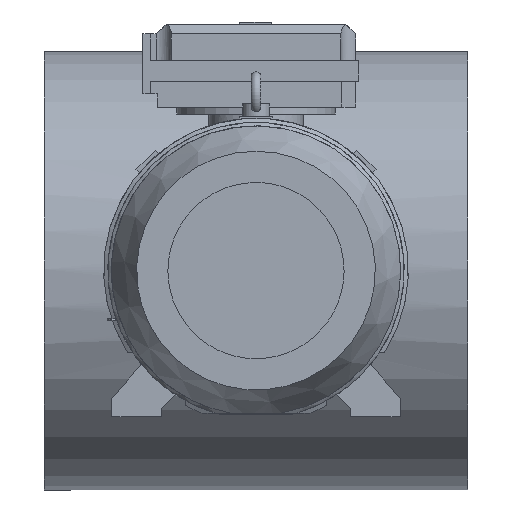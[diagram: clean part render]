
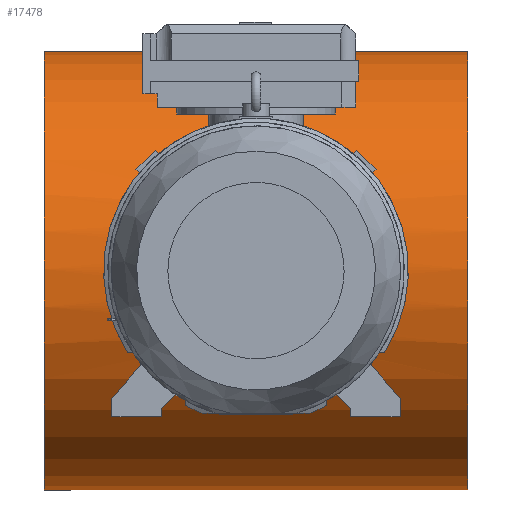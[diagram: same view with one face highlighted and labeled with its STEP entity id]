
A CAD part, left-side view. The second image highlights one B-rep face of the part: STEP entity #17478.
In plain terms, the highlighted cylindrical face has radius 533 mm (diameter 1066 mm), a partial arc.
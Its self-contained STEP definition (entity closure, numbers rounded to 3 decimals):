
#228=B_SPLINE_CURVE_WITH_KNOTS('',3,(#26114,#26115,#26116,#26117,#26118,
#26119,#26120,#26121,#26122,#26123,#26124,#26125,#26126,#26127,#26128,#26129,
#26130,#26131,#26132,#26133,#26134,#26135,#26136,#26137,#26138,#26139,#26140,
#26141,#26142,#26143,#26144,#26145,#26146,#26147,#26148,#26149,#26150,#26151,
#26152,#26153,#26154,#26155,#26156,#26157,#26158,#26159,#26160,#26161,#26162,
#26163),.UNSPECIFIED.,.F.,.F.,(4,2,2,2,2,2,2,2,2,2,2,2,2,2,2,2,2,2,2,2,
2,2,2,2,4),(0.,2.938,5.876,8.814,11.752,
14.69,17.627,20.564,23.502,26.439,
29.376,32.314,35.251,38.189,41.127,
44.065,47.004,49.942,52.88,55.818,
58.756,61.693,64.631,67.568,70.505),
 .UNSPECIFIED.);
#229=B_SPLINE_CURVE_WITH_KNOTS('',3,(#26164,#26165,#26166,#26167,#26168,
#26169,#26170,#26171,#26172,#26173,#26174,#26175,#26176,#26177,#26178,#26179,
#26180,#26181),.UNSPECIFIED.,.F.,.F.,(4,2,2,2,2,2,2,2,4),(70.505,
73.443,76.38,79.317,82.255,85.193,
88.131,91.069,94.007),.UNSPECIFIED.);
#491=FACE_BOUND('',#1959,.T.);
#1012=FACE_OUTER_BOUND('',#1958,.T.);
#1958=EDGE_LOOP('',(#11033,#11034,#11035,#11036));
#1959=EDGE_LOOP('',(#11037,#11038));
#2980=LINE('',#26106,#4174);
#2981=LINE('',#26110,#4175);
#4174=VECTOR('',#20658,10.);
#4175=VECTOR('',#20661,10.);
#5371=CIRCLE('',#18479,533.);
#5372=CIRCLE('',#18480,533.);
#6517=VERTEX_POINT('',#26104);
#6518=VERTEX_POINT('',#26105);
#6519=VERTEX_POINT('',#26107);
#6520=VERTEX_POINT('',#26109);
#6521=VERTEX_POINT('',#26112);
#6522=VERTEX_POINT('',#26113);
#8297=EDGE_CURVE('',#6517,#6518,#2980,.T.);
#8298=EDGE_CURVE('',#6517,#6519,#5371,.T.);
#8299=EDGE_CURVE('',#6520,#6519,#2981,.T.);
#8300=EDGE_CURVE('',#6518,#6520,#5372,.T.);
#8301=EDGE_CURVE('',#6521,#6522,#228,.T.);
#8302=EDGE_CURVE('',#6522,#6521,#229,.T.);
#11033=ORIENTED_EDGE('',*,*,#8297,.F.);
#11034=ORIENTED_EDGE('',*,*,#8298,.T.);
#11035=ORIENTED_EDGE('',*,*,#8299,.F.);
#11036=ORIENTED_EDGE('',*,*,#8300,.F.);
#11037=ORIENTED_EDGE('',*,*,#8301,.T.);
#11038=ORIENTED_EDGE('',*,*,#8302,.T.);
#16138=CYLINDRICAL_SURFACE('',#18478,533.);
#17478=ADVANCED_FACE('',(#1012,#491),#16138,.T.);
#18478=AXIS2_PLACEMENT_3D('',#26103,#20656,#20657);
#18479=AXIS2_PLACEMENT_3D('',#26108,#20659,#20660);
#18480=AXIS2_PLACEMENT_3D('',#26111,#20662,#20663);
#20656=DIRECTION('center_axis',(0.,1.,0.));
#20657=DIRECTION('ref_axis',(0.,0.,
1.));
#20658=DIRECTION('',(0.,1.,0.));
#20659=DIRECTION('center_axis',(0.,1.,0.));
#20660=DIRECTION('ref_axis',(0.,0.,
-1.));
#20661=DIRECTION('',(0.,-1.,0.));
#20662=DIRECTION('center_axis',(0.,1.,0.));
#20663=DIRECTION('ref_axis',(0.,0.,
-1.));
#26103=CARTESIAN_POINT('Origin',(-1.605,0.,
-1.605));
#26104=CARTESIAN_POINT('',(-8.512,-515.,-534.56));
#26105=CARTESIAN_POINT('',(-8.512,515.,-534.56));
#26106=CARTESIAN_POINT('',(-8.512,0.,-534.56));
#26107=CARTESIAN_POINT('',(5.303,-515.,-534.56));
#26108=CARTESIAN_POINT('Origin',(-1.605,-515.,-1.605));
#26109=CARTESIAN_POINT('',(5.303,515.,-534.56));
#26110=CARTESIAN_POINT('',(5.303,0.,-534.56));
#26111=CARTESIAN_POINT('Origin',(-1.605,515.,-1.605));
#26112=CARTESIAN_POINT('',(-511.569,0.,153.395));
#26113=CARTESIAN_POINT('',(-534.605,155.,-1.605));
#26114=CARTESIAN_POINT('Ctrl Pts',(-511.569,0.,
153.395));
#26115=CARTESIAN_POINT('Ctrl Pts',(-511.569,-9.794,
153.395));
#26116=CARTESIAN_POINT('Ctrl Pts',(-511.859,-19.902,
152.452));
#26117=CARTESIAN_POINT('Ctrl Pts',(-513.035,-39.973,
148.501));
#26118=CARTESIAN_POINT('Ctrl Pts',(-513.921,-49.935,145.495));
#26119=CARTESIAN_POINT('Ctrl Pts',(-516.13,-69.011,
137.569));
#26120=CARTESIAN_POINT('Ctrl Pts',(-517.454,-78.141,
132.643));
#26121=CARTESIAN_POINT('Ctrl Pts',(-520.278,-95.011,
121.283));
#26122=CARTESIAN_POINT('Ctrl Pts',(-521.775,-102.752,
114.847));
#26123=CARTESIAN_POINT('Ctrl Pts',(-524.653,-116.45,
101.149));
#26124=CARTESIAN_POINT('Ctrl Pts',(-526.137,-122.885,93.409));
#26125=CARTESIAN_POINT('Ctrl Pts',(-528.914,-134.246,
76.538));
#26126=CARTESIAN_POINT('Ctrl Pts',(-530.205,-139.173,67.407));
#26127=CARTESIAN_POINT('Ctrl Pts',(-532.347,-147.1,
48.329));
#26128=CARTESIAN_POINT('Ctrl Pts',(-533.199,-150.107,38.365));
#26129=CARTESIAN_POINT('Ctrl Pts',(-534.328,-154.057,
18.294));
#26130=CARTESIAN_POINT('Ctrl Pts',(-534.605,-155.,8.187));
#26131=CARTESIAN_POINT('Ctrl Pts',(-534.605,-155.,-11.396));
#26132=CARTESIAN_POINT('Ctrl Pts',(-534.328,-154.057,
-21.503));
#26133=CARTESIAN_POINT('Ctrl Pts',(-533.199,-150.107,
-41.574));
#26134=CARTESIAN_POINT('Ctrl Pts',(-532.347,-147.1,
-51.538));
#26135=CARTESIAN_POINT('Ctrl Pts',(-530.205,-139.173,
-70.616));
#26136=CARTESIAN_POINT('Ctrl Pts',(-528.914,-134.246,
-79.748));
#26137=CARTESIAN_POINT('Ctrl Pts',(-526.137,-122.885,-96.619));
#26138=CARTESIAN_POINT('Ctrl Pts',(-524.653,-116.45,
-104.358));
#26139=CARTESIAN_POINT('Ctrl Pts',(-521.775,-102.752,
-118.056));
#26140=CARTESIAN_POINT('Ctrl Pts',(-520.278,-95.011,
-124.492));
#26141=CARTESIAN_POINT('Ctrl Pts',(-517.454,-78.141,
-135.852));
#26142=CARTESIAN_POINT('Ctrl Pts',(-516.13,-69.011,
-140.778));
#26143=CARTESIAN_POINT('Ctrl Pts',(-513.921,-49.935,
-148.704));
#26144=CARTESIAN_POINT('Ctrl Pts',(-513.035,-39.973,
-151.71));
#26145=CARTESIAN_POINT('Ctrl Pts',(-511.859,-19.902,
-155.661));
#26146=CARTESIAN_POINT('Ctrl Pts',(-511.569,-9.794,
-156.605));
#26147=CARTESIAN_POINT('Ctrl Pts',(-511.569,9.794,-156.605));
#26148=CARTESIAN_POINT('Ctrl Pts',(-511.859,19.902,-155.661));
#26149=CARTESIAN_POINT('Ctrl Pts',(-513.035,39.973,-151.71));
#26150=CARTESIAN_POINT('Ctrl Pts',(-513.921,49.935,-148.704));
#26151=CARTESIAN_POINT('Ctrl Pts',(-516.13,69.011,-140.778));
#26152=CARTESIAN_POINT('Ctrl Pts',(-517.454,78.141,-135.852));
#26153=CARTESIAN_POINT('Ctrl Pts',(-520.278,95.011,-124.492));
#26154=CARTESIAN_POINT('Ctrl Pts',(-521.775,102.752,-118.056));
#26155=CARTESIAN_POINT('Ctrl Pts',(-524.653,116.45,-104.358));
#26156=CARTESIAN_POINT('Ctrl Pts',(-526.137,122.885,-96.619));
#26157=CARTESIAN_POINT('Ctrl Pts',(-528.914,134.246,-79.748));
#26158=CARTESIAN_POINT('Ctrl Pts',(-530.205,139.173,-70.616));
#26159=CARTESIAN_POINT('Ctrl Pts',(-532.347,147.1,-51.538));
#26160=CARTESIAN_POINT('Ctrl Pts',(-533.199,150.107,-41.574));
#26161=CARTESIAN_POINT('Ctrl Pts',(-534.328,154.057,-21.503));
#26162=CARTESIAN_POINT('Ctrl Pts',(-534.605,155.,-11.396));
#26163=CARTESIAN_POINT('Ctrl Pts',(-534.605,155.,-1.605));
#26164=CARTESIAN_POINT('Ctrl Pts',(-534.605,155.,-1.605));
#26165=CARTESIAN_POINT('Ctrl Pts',(-534.605,155.,8.187));
#26166=CARTESIAN_POINT('Ctrl Pts',(-534.328,154.057,18.294));
#26167=CARTESIAN_POINT('Ctrl Pts',(-533.199,150.107,38.365));
#26168=CARTESIAN_POINT('Ctrl Pts',(-532.347,147.1,48.329));
#26169=CARTESIAN_POINT('Ctrl Pts',(-530.205,139.173,67.407));
#26170=CARTESIAN_POINT('Ctrl Pts',(-528.914,134.246,76.538));
#26171=CARTESIAN_POINT('Ctrl Pts',(-526.137,122.885,93.409));
#26172=CARTESIAN_POINT('Ctrl Pts',(-524.653,116.45,101.149));
#26173=CARTESIAN_POINT('Ctrl Pts',(-521.775,102.752,114.847));
#26174=CARTESIAN_POINT('Ctrl Pts',(-520.278,95.011,121.283));
#26175=CARTESIAN_POINT('Ctrl Pts',(-517.454,78.141,132.643));
#26176=CARTESIAN_POINT('Ctrl Pts',(-516.13,69.011,137.569));
#26177=CARTESIAN_POINT('Ctrl Pts',(-513.921,49.935,145.495));
#26178=CARTESIAN_POINT('Ctrl Pts',(-513.035,39.973,148.501));
#26179=CARTESIAN_POINT('Ctrl Pts',(-511.859,19.902,152.452));
#26180=CARTESIAN_POINT('Ctrl Pts',(-511.569,9.794,153.395));
#26181=CARTESIAN_POINT('Ctrl Pts',(-511.569,0.,
153.395));
